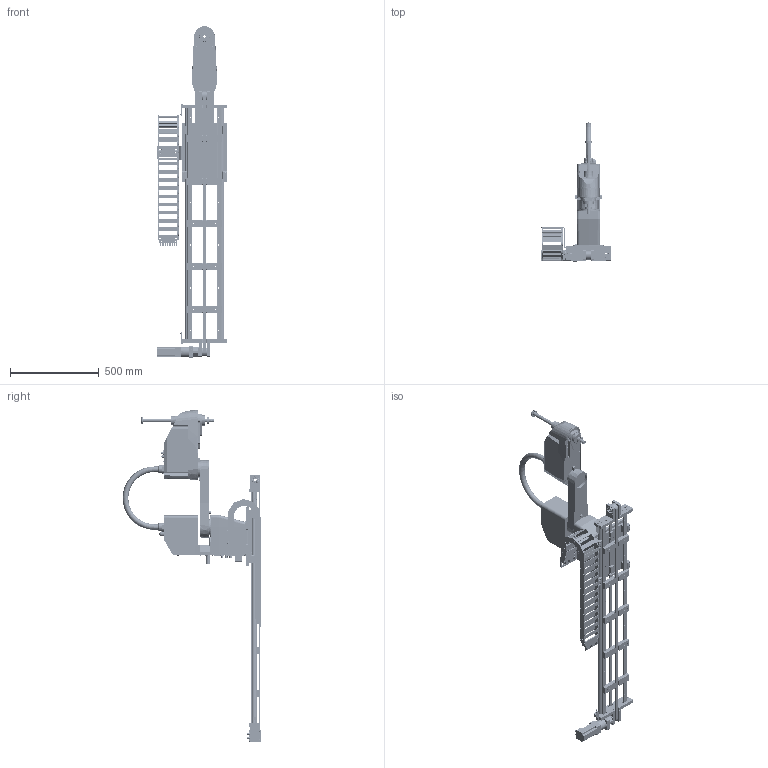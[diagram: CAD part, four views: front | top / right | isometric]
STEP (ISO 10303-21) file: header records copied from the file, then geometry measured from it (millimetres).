
FILE_DESCRIPTION(/* description */ (''),/* implementation_level */ '2;1');
FILE_NAME(/* name */ 'I:\Gleitlager\Konstruktion\SERIE NEU (im Aufbau!!)\drylin LCA\7. Achse\ZLW-20200S-7TH-EPS-01-xxxx\Epson\T6\ZLW-20200S-7TH-EPS-01-1000 + T6.stp',/* time_stamp */ '2021-04-20T15:03:02+02:00',/* author */ ('fkleine'),/* organization */ (''),/* preprocessor_version */ 'ST-DEVELOPER v18.1',/* originating_system */ 'Autodesk Inventor 2020',/* authorisation */ '');
FILE_SCHEMA (('AUTOMOTIVE_DESIGN { 1 0 10303 214 3 1 1 }'));
Products named in the file (50): ZLW-20200S-7TH-EPS-01-xxxx; ZLW-20200S-K0BX0-D0K4B-BX0F0AE-xxxx; ZT-20200; ZTY-20200-001; NOR-10525; ZTY-20120-002; MH-06; NOR-20950; ZTY-20120-016; NOR-20516; NOR-10518; ZR-20120-001-ES-3028; WS-20-1340-C5=C6=70; ZSY-20200-001; NOR-10639; ZW-20200-300-WJ200UMA; ZWY-20200-001-300; ZWY-20120-003; GFM-0607-06; ZWY-20120-002; NOR-10601; NOR-10602; WJ200UMA-01-20-AL; WMA-01-20-AL; WRZ-012001; J200UMA-01-20-K; NOR-10590; MK-0517; COU-AR-K-140-140-42-40-B-AAAA; GEA-60-5-60-ST-080; E-GEA-60-10-60-ST; ZTY-1040109; NOR-11003; NOR-10552; MF-20120-GEAR60-S; ZTY-20120-018; ZTY-20120-006; NOR-10607; NOR-10610; MOT-AN-S-060-035-060-M-C-AAAC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
Assembly tree (103 placements, depth 5):
  ZLW-20200S-7TH-EPS-01-xxxx
    ZLW-20200S-K0BX0-D0K4B-BX0F0AE-xxxx
      ZT-20200  x2
        ZTY-20200-001
        NOR-10525
        MH-06
        ZTY-20120-002
        NOR-20950
        ZTY-20120-016
        NOR-20516
        NOR-10518
      ZR-20120-001-ES-3028
      WS-20-1340-C5=C6=70  x2
      ZSY-20200-001  x5
      NOR-10639  x10
      ZW-20200-300-WJ200UMA
        ZWY-20200-001-300
        ZWY-20120-002  x2
        ZWY-20120-003
        GFM-0607-06
        WJ200UMA-01-20-AL  x4
          WMA-01-20-AL
          WRZ-012001
          J200UMA-01-20-K
        NOR-10601  x6
        NOR-10602  x4
        NOR-10590
      IK-0107  x2
        INI-AB-I-025-B-AA
        ZTY-20120-029
        NOR-10129
        NOR-10726
      MK-0517
        COU-AR-K-140-140-42-40-B-AAAA
        GEA-60-5-60-ST-080
          E-GEA-60-10-60-ST
          ZTY-1040109
          NOR-11003  x4
          NOR-10552  x4
        MF-20120-GEAR60-S
          ZTY-20120-018
          ZTY-20120-006
          NOR-10607  x4
          NOR-10610  x8
        MOT-AN-S-060-035-060-M-C-AAAC
          1
          2
    2400_10_1
    AK-D00308495
    T6
Bounding box: 393.2 x 781.1 x 1868.5 mm (x, y, z)
Volume: 28613228.6 mm3; surface area: 3274273.1 mm2
Topology: 155 solids, 159 shells, 8899 faces, 24272 edges, 16114 vertices
Faces by surface type: plane 5730, cylinder 1907, cone 576, bspline 349, torus 300, sphere 37
Full cylindrical faces by diameter (mm): 1 x15, 1.948 x2, 2.013 x4, 2.26 x2, 2.3 x2, 2.459 x8, 2.5 x20, 2.6 x2, 2.8 x9, 3 x11, 3.242 x21, 3.5 x2, 4 x9, 4.134 x23, 4.2 x4, 4.3 x4, 4.5 x2, 4.917 x17, 5 x22, 5.3 x2, 5.4 x10, 5.5 x23, 5.8 x2, 6 x43, 6.1 x2, 6.2 x4, 6.6 x1, 6.647 x38, 7 x36, 7.5 x10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
Entity records: 210301 total; most frequent: CARTESIAN_POINT 47703, ORIENTED_EDGE 33092, DIRECTION 31633, EDGE_CURVE 16554, LINE 11587, VECTOR 11587, VERTEX_POINT 11033, AXIS2_PLACEMENT_3D 10023
